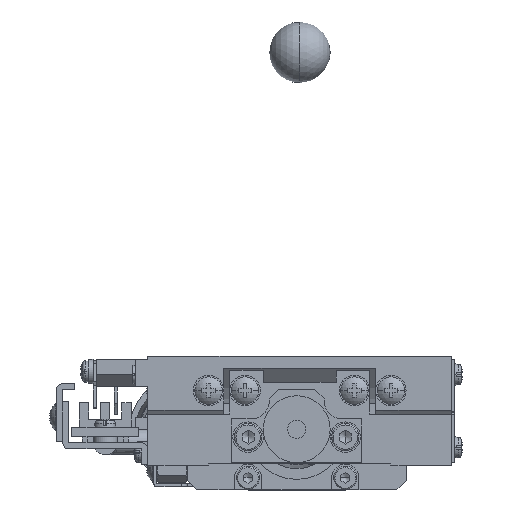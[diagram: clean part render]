
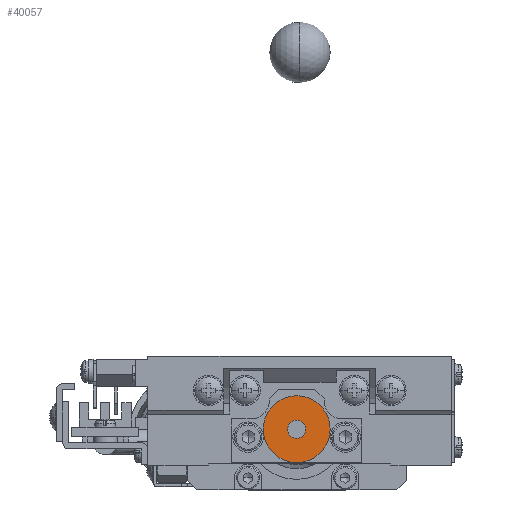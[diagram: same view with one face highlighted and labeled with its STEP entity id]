
A CAD part, left-side view. The second image highlights one B-rep face of the part: STEP entity #40057.
In plain terms, the highlighted planar face has unit normal (-1, 0, 0).
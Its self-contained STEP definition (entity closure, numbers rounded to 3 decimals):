
#358 = CARTESIAN_POINT ( 'NONE',  ( -182.371, 172.006, 99.11 ) ) ;
#434 = ORIENTED_EDGE ( 'NONE', *, *, #10781, .F. ) ;
#2817 = FACE_BOUND ( 'NONE', #18274, .T. ) ;
#3843 = CARTESIAN_POINT ( 'NONE',  ( -182.371, 177.506, 99.11 ) ) ;
#9339 = AXIS2_PLACEMENT_3D ( 'NONE', #27787, #75572, #69872 ) ;
#10235 = CIRCLE ( 'NONE', #9339, 1.5 ) ;
#10781 = EDGE_CURVE ( 'NONE', #45654, #40660, #66448, .T. ) ;
#12740 = DIRECTION ( 'NONE',  ( 0., 1., 0. ) ) ;
#12992 = PLANE ( 'NONE',  #73004 ) ;
#17737 = DIRECTION ( 'NONE',  ( -1., 0., 0. ) ) ;
#18274 = EDGE_LOOP ( 'NONE', ( #434, #56597 ) ) ;
#18746 = CARTESIAN_POINT ( 'NONE',  ( -182.371, 177.506, 99.11 ) ) ;
#23002 = EDGE_CURVE ( 'NONE', #40660, #45654, #10235, .T. ) ;
#25031 = ORIENTED_EDGE ( 'NONE', *, *, #57926, .T. ) ;
#26114 = CARTESIAN_POINT ( 'NONE',  ( -182.371, 177.506, 97.61 ) ) ;
#27592 = VERTEX_POINT ( 'NONE', #50905 ) ;
#27787 = CARTESIAN_POINT ( 'NONE',  ( -182.371, 177.506, 99.11 ) ) ;
#31583 = CIRCLE ( 'NONE', #39570, 5.5 ) ;
#33559 = CARTESIAN_POINT ( 'NONE',  ( -182.371, 177.506, 99.11 ) ) ;
#36851 = CARTESIAN_POINT ( 'NONE',  ( -182.371, 177.506, 99.11 ) ) ;
#37146 = FACE_OUTER_BOUND ( 'NONE', #68001, .T. ) ;
#39226 = AXIS2_PLACEMENT_3D ( 'NONE', #3843, #57117, #74215 ) ;
#39570 = AXIS2_PLACEMENT_3D ( 'NONE', #33559, #68916, #56990 ) ;
#40057 = ADVANCED_FACE ( 'NONE', ( #2817, #37146 ), #12992, .T. ) ;
#40660 = VERTEX_POINT ( 'NONE', #26114 ) ;
#41352 = DIRECTION ( 'NONE',  ( 0., 1., 0. ) ) ;
#45654 = VERTEX_POINT ( 'NONE', #67066 ) ;
#50905 = CARTESIAN_POINT ( 'NONE',  ( -182.371, 183.006, 99.11 ) ) ;
#53922 = AXIS2_PLACEMENT_3D ( 'NONE', #18746, #17737, #41352 ) ;
#54162 = EDGE_CURVE ( 'NONE', #27592, #55409, #31583, .T. ) ;
#55409 = VERTEX_POINT ( 'NONE', #358 ) ;
#56597 = ORIENTED_EDGE ( 'NONE', *, *, #23002, .F. ) ;
#56990 = DIRECTION ( 'NONE',  ( 0., 1., 0. ) ) ;
#57117 = DIRECTION ( 'NONE',  ( -1., 0., 0. ) ) ;
#57926 = EDGE_CURVE ( 'NONE', #55409, #27592, #64179, .T. ) ;
#64179 = CIRCLE ( 'NONE', #39226, 5.5 ) ;
#65802 = ORIENTED_EDGE ( 'NONE', *, *, #54162, .T. ) ;
#66448 = CIRCLE ( 'NONE', #53922, 1.5 ) ;
#66741 = DIRECTION ( 'NONE',  ( -1., 0., 0. ) ) ;
#67066 = CARTESIAN_POINT ( 'NONE',  ( -182.371, 177.506, 100.61 ) ) ;
#68001 = EDGE_LOOP ( 'NONE', ( #65802, #25031 ) ) ;
#68916 = DIRECTION ( 'NONE',  ( -1., 0., 0. ) ) ;
#69872 = DIRECTION ( 'NONE',  ( 0., 1., 0. ) ) ;
#73004 = AXIS2_PLACEMENT_3D ( 'NONE', #36851, #66741, #12740 ) ;
#74215 = DIRECTION ( 'NONE',  ( 0., 1., 0. ) ) ;
#75572 = DIRECTION ( 'NONE',  ( -1., 0., 0. ) ) ;
